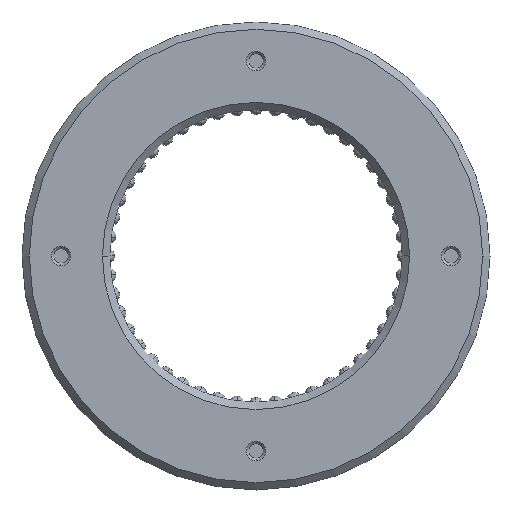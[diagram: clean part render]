
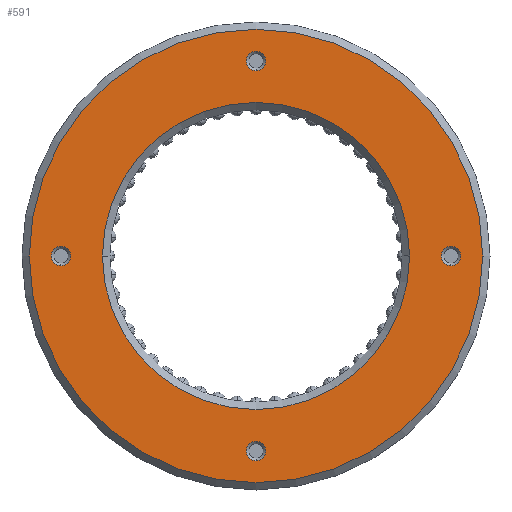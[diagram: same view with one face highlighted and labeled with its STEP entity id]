
A CAD part, front view. The second image highlights one B-rep face of the part: STEP entity #591.
In plain terms, the highlighted planar face has unit normal (0, -1, 0).
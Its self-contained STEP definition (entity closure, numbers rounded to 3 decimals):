
#76=CARTESIAN_POINT('',(0.,0.,
0.));
#77=DIRECTION('',(0.,1.,0.));
#78=DIRECTION('',(1.,0.,0.));
#79=AXIS2_PLACEMENT_3D('',#76,#77,#78);
#81=CARTESIAN_POINT('',(0.,0.,
0.));
#82=DIRECTION('',(0.,1.,0.));
#83=DIRECTION('',(-1.,0.,0.));
#84=AXIS2_PLACEMENT_3D('',#81,#82,#83);
#86=CARTESIAN_POINT('',(0.,0.,0.));
#87=DIRECTION('',(0.,1.,0.));
#88=DIRECTION('',(-1.,0.,0.));
#89=AXIS2_PLACEMENT_3D('',#86,#87,#88);
#91=CARTESIAN_POINT('',(0.,0.,
0.));
#92=DIRECTION('',(0.,1.,0.));
#93=DIRECTION('',(1.,0.,0.));
#94=AXIS2_PLACEMENT_3D('',#91,#92,#93);
#96=CARTESIAN_POINT('',(40.,0.,0.));
#97=DIRECTION('',(0.,1.,0.));
#98=DIRECTION('',(0.,0.,-1.));
#99=AXIS2_PLACEMENT_3D('',#96,#97,#98);
#101=CARTESIAN_POINT('',(40.,0.,0.));
#102=DIRECTION('',(0.,1.,0.));
#103=DIRECTION('',(0.,0.,1.));
#104=AXIS2_PLACEMENT_3D('',#101,#102,#103);
#106=CARTESIAN_POINT('',(0.,0.,40.));
#107=DIRECTION('',(0.,1.,0.));
#108=DIRECTION('',(0.,0.,-1.));
#109=AXIS2_PLACEMENT_3D('',#106,#107,#108);
#111=CARTESIAN_POINT('',(0.,0.,40.));
#112=DIRECTION('',(0.,1.,0.));
#113=DIRECTION('',(0.,0.,1.));
#114=AXIS2_PLACEMENT_3D('',#111,#112,#113);
#116=CARTESIAN_POINT('',(-40.,0.,0.));
#117=DIRECTION('',(0.,1.,0.));
#118=DIRECTION('',(0.,0.,-1.));
#119=AXIS2_PLACEMENT_3D('',#116,#117,#118);
#121=CARTESIAN_POINT('',(-40.,0.,0.));
#122=DIRECTION('',(0.,1.,0.));
#123=DIRECTION('',(0.,0.,1.));
#124=AXIS2_PLACEMENT_3D('',#121,#122,#123);
#126=CARTESIAN_POINT('',(0.,0.,-40.));
#127=DIRECTION('',(0.,1.,0.));
#128=DIRECTION('',(0.,0.,1.));
#129=AXIS2_PLACEMENT_3D('',#126,#127,#128);
#131=CARTESIAN_POINT('',(0.,0.,-40.));
#132=DIRECTION('',(0.,1.,0.));
#133=DIRECTION('',(0.,0.,-1.));
#134=AXIS2_PLACEMENT_3D('',#131,#132,#133);
#368=CARTESIAN_POINT('',(46.5,0.,0.));
#369=CARTESIAN_POINT('',(-46.5,0.,
0.));
#370=VERTEX_POINT('',#368);
#371=VERTEX_POINT('',#369);
#372=CARTESIAN_POINT('',(-31.5,0.,0.));
#373=CARTESIAN_POINT('',(31.5,0.,0.));
#374=VERTEX_POINT('',#372);
#375=VERTEX_POINT('',#373);
#412=CARTESIAN_POINT('',(40.,0.,-2.));
#413=CARTESIAN_POINT('',(40.,0.,2.));
#414=VERTEX_POINT('',#412);
#415=VERTEX_POINT('',#413);
#420=CARTESIAN_POINT('',(0.,0.,38.));
#421=CARTESIAN_POINT('',(0.,0.,42.));
#422=VERTEX_POINT('',#420);
#423=VERTEX_POINT('',#421);
#428=CARTESIAN_POINT('',(-40.,0.,-2.));
#429=CARTESIAN_POINT('',(-40.,0.,2.));
#430=VERTEX_POINT('',#428);
#431=VERTEX_POINT('',#429);
#436=CARTESIAN_POINT('',(0.,0.,-38.));
#437=CARTESIAN_POINT('',(0.,0.,-42.));
#438=VERTEX_POINT('',#436);
#439=VERTEX_POINT('',#437);
#551=CARTESIAN_POINT('',(0.,0.,0.));
#552=DIRECTION('',(0.,1.,0.));
#553=DIRECTION('',(1.,0.,0.));
#554=AXIS2_PLACEMENT_3D('',#551,#552,#553);
#555=PLANE('',#554);
#557=ORIENTED_EDGE('',*,*,#556,.T.);
#559=ORIENTED_EDGE('',*,*,#558,.T.);
#560=EDGE_LOOP('',(#557,#559));
#561=FACE_OUTER_BOUND('',#560,.F.);
#562=ORIENTED_EDGE('',*,*,#541,.F.);
#564=ORIENTED_EDGE('',*,*,#563,.F.);
#565=EDGE_LOOP('',(#562,#564));
#566=FACE_BOUND('',#565,.F.);
#568=ORIENTED_EDGE('',*,*,#567,.F.);
#570=ORIENTED_EDGE('',*,*,#569,.F.);
#571=EDGE_LOOP('',(#568,#570));
#572=FACE_BOUND('',#571,.F.);
#574=ORIENTED_EDGE('',*,*,#573,.F.);
#576=ORIENTED_EDGE('',*,*,#575,.F.);
#577=EDGE_LOOP('',(#574,#576));
#578=FACE_BOUND('',#577,.F.);
#580=ORIENTED_EDGE('',*,*,#579,.F.);
#582=ORIENTED_EDGE('',*,*,#581,.F.);
#583=EDGE_LOOP('',(#580,#582));
#584=FACE_BOUND('',#583,.F.);
#586=ORIENTED_EDGE('',*,*,#585,.F.);
#588=ORIENTED_EDGE('',*,*,#587,.F.);
#589=EDGE_LOOP('',(#586,#588));
#590=FACE_BOUND('',#589,.F.);
#80=CIRCLE('',#79,46.5);
#85=CIRCLE('',#84,46.5);
#90=CIRCLE('',#89,31.5);
#95=CIRCLE('',#94,31.5);
#100=CIRCLE('',#99,2.);
#105=CIRCLE('',#104,2.);
#110=CIRCLE('',#109,2.);
#115=CIRCLE('',#114,2.);
#120=CIRCLE('',#119,2.);
#125=CIRCLE('',#124,2.);
#130=CIRCLE('',#129,2.);
#135=CIRCLE('',#134,2.);
#541=EDGE_CURVE('',#374,#375,#90,.T.);
#556=EDGE_CURVE('',#370,#371,#80,.T.);
#558=EDGE_CURVE('',#371,#370,#85,.T.);
#563=EDGE_CURVE('',#375,#374,#95,.T.);
#567=EDGE_CURVE('',#414,#415,#100,.T.);
#569=EDGE_CURVE('',#415,#414,#105,.T.);
#573=EDGE_CURVE('',#422,#423,#110,.T.);
#575=EDGE_CURVE('',#423,#422,#115,.T.);
#579=EDGE_CURVE('',#430,#431,#120,.T.);
#581=EDGE_CURVE('',#431,#430,#125,.T.);
#585=EDGE_CURVE('',#438,#439,#130,.T.);
#587=EDGE_CURVE('',#439,#438,#135,.T.);
#591=ADVANCED_FACE('',(#561,#566,#572,#578,#584,#590),#555,.F.);
